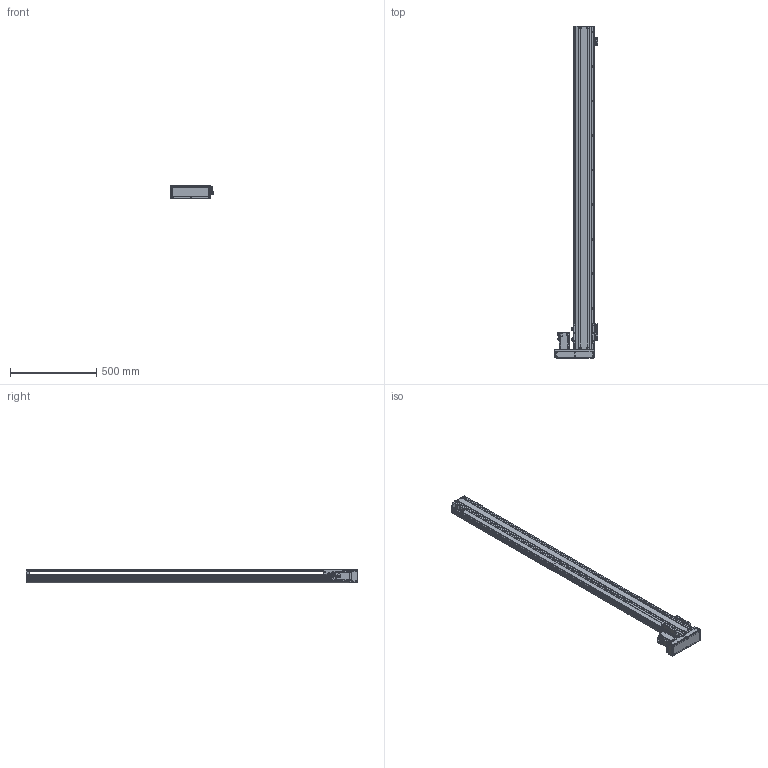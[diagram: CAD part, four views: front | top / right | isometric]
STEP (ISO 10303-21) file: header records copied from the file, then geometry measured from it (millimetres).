
FILE_DESCRIPTION(/* description */ ('MANUFACTURE'),/* implementation_level */ '2;1');
FILE_NAME(/* name */ '\\192.168.0.160\disk1\HAN SHIN Master\B-설계부문\C-표준\B-2024년\BC02-표준도면\+로봇 개선표준도면\표준 승인도 작업 폴더\3D\HG120\HG120병렬\좌병렬\HG120-L40-N-1700-R10.stp',/* time_stamp */ '2024-02-15T08:51:55+09:00',/* author */ ('User'),/* organization */ (''),/* preprocessor_version */ 'ST-DEVELOPER v18.1',/* originating_system */ 'Autodesk Inventor 2022',/* authorisation */ 'LIP');
FILE_SCHEMA (('AUTOMOTIVE_DESIGN { 1 0 10303 214 3 1 1 }'));
Products named in the file (22): HG120-L40-N-0500-R10; HR120 S BASE; HR(HG) 120,130 FRONT BLOCK; HR(HG) 120,130 FRONT BLOCK_1; HR120 FRONT COVER; HG5UPCOV003; HR120 SENSOR DOG; ORP6; hsr_ftht_A-M6F_grease_nipple_joint; NIPPLE CAP(신규); HG120 TABLE-N; HR120 STOPPER; HR120 LR MOTOR PLATE (400W)-사출; MOTOR PLATE - 200W; hg-kr43_; 화살표; HR120 LR BELT COVER; HR160 ACRYL COVER - 1; HR160 ACRYL COVER - 1_1; HR160 ACRYL COVER - 1_2; SENSOR BRK(EE-SX674A); EE_SX674A
Assembly tree (39 placements, depth 2):
  HG120-L40-N-0500-R10
    HR120 S BASE
    HR(HG) 120,130 FRONT BLOCK
    HR(HG) 120,130 FRONT BLOCK_1
    HR120 FRONT COVER
    SENSOR BRK(EE-SX674A)  x3
    HG5UPCOV003
    HR120 SENSOR DOG
    ORP6  x5
    hsr_ftht_A-M6F_grease_nipple_joint  x5
    NIPPLE CAP(신규)  x5
    HG120 TABLE-N
    EE_SX674A  x3
    HR120 STOPPER
    HR120 LR MOTOR PLATE (400W)-사출
    MOTOR PLATE - 200W
    hg-kr43_
    화살표  x2
    HR120 LR BELT COVER
    HR160 ACRYL COVER - 1
    HR160 ACRYL COVER - 1_1
    HR160 ACRYL COVER - 1_2  x2
Bounding box: 250 x 1923 x 80 mm (x, y, z)
Volume: 4835363.3 mm3; surface area: 1954630.9 mm2
Topology: 39 solids, 39 shells, 3579 faces, 10243 edges, 6759 vertices
Faces by surface type: plane 2407, cylinder 846, cone 231, sphere 40, torus 35, bspline 20
Full cylindrical faces by diameter (mm): 2.459 x50, 3 x4, 3.242 x48, 3.4 x20, 3.5 x6, 4.134 x46, 4.5 x56, 4.917 x6, 5 x26, 5.5 x35, 5.6 x5, 5.8 x4, 5.9 x8, 6 x9, 6.5 x10, 6.6 x2, 7 x4, 7.5 x16, 8 x4, 9 x6, 9.5 x23, 14 x1, 17 x1, 20 x1, 22 x1, 24 x1, 28 x1, 32 x2, 33.7 x1, 50 x2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
Entity records: 103498 total; most frequent: CARTESIAN_POINT 21357, ORIENTED_EDGE 17174, DIRECTION 15950, EDGE_CURVE 8587, LINE 6682, VECTOR 6682, VERTEX_POINT 5739, AXIS2_PLACEMENT_3D 4634
